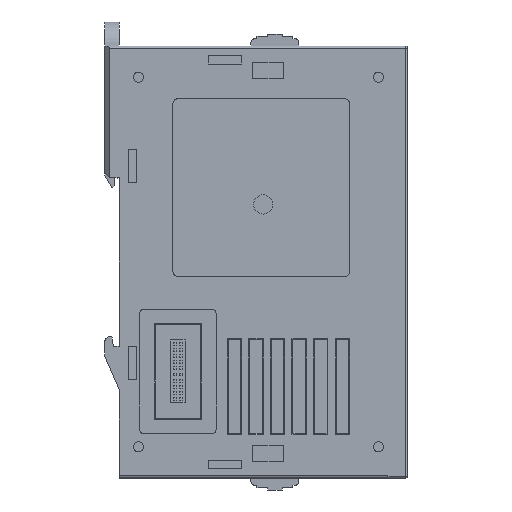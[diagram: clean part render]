
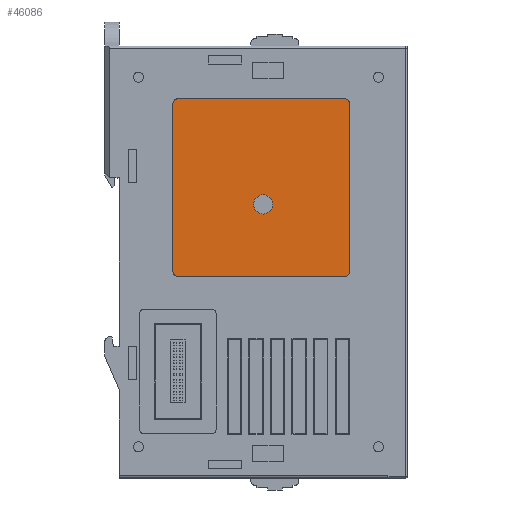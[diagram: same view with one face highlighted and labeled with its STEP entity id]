
A CAD part, front view. The second image highlights one B-rep face of the part: STEP entity #46086.
In plain terms, the highlighted planar face has unit normal (0, -1, 0).
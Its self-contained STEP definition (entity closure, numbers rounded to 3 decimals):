
#16339=DIRECTION('',(0.,0.,-1.));
#16340=VECTOR('',#16339,35.);
#16341=CARTESIAN_POINT('',(-18.8,0.3,33.));
#16342=LINE('',#16341,#16340);
#16348=CARTESIAN_POINT('',(17.,0.3,-2.));
#16349=DIRECTION('',(0.,-1.,0.));
#16350=DIRECTION('',(0.,0.,-1.));
#16351=AXIS2_PLACEMENT_3D('',#16348,#16349,#16350);
#16353=DIRECTION('',(1.,0.,0.));
#16354=VECTOR('',#16353,34.8);
#16355=CARTESIAN_POINT('',(-17.8,0.3,-3.));
#16356=LINE('',#16355,#16354);
#16357=CARTESIAN_POINT('',(-17.8,0.3,-2.));
#16358=DIRECTION('',(0.,-1.,0.));
#16359=DIRECTION('',(-1.,0.,0.));
#16360=AXIS2_PLACEMENT_3D('',#16357,#16358,#16359);
#16362=CARTESIAN_POINT('',(-17.8,0.3,33.));
#16363=DIRECTION('',(0.,-1.,0.));
#16364=DIRECTION('',(0.,0.,1.));
#16365=AXIS2_PLACEMENT_3D('',#16362,#16363,#16364);
#16367=CARTESIAN_POINT('',(17.,0.3,33.));
#16368=DIRECTION('',(0.,-1.,0.));
#16369=DIRECTION('',(1.,0.,0.));
#16370=AXIS2_PLACEMENT_3D('',#16367,#16368,#16369);
#16372=CARTESIAN_POINT('',(0.,0.3,12.));
#16373=DIRECTION('',(0.,-1.,0.));
#16374=DIRECTION('',(-1.,0.,0.));
#16375=AXIS2_PLACEMENT_3D('',#16372,#16373,#16374);
#16377=CARTESIAN_POINT('',(0.,0.3,12.));
#16378=DIRECTION('',(0.,-1.,0.));
#16379=DIRECTION('',(1.,0.,0.));
#16380=AXIS2_PLACEMENT_3D('',#16377,#16378,#16379);
#16391=DIRECTION('',(0.,0.,1.));
#16392=VECTOR('',#16391,35.);
#16393=CARTESIAN_POINT('',(18.,0.3,-2.));
#16394=LINE('',#16393,#16392);
#16420=DIRECTION('',(-1.,0.,0.));
#16421=VECTOR('',#16420,34.8);
#16422=CARTESIAN_POINT('',(17.,0.3,34.));
#16423=LINE('',#16422,#16421);
#17577=CARTESIAN_POINT('',(-2.,0.3,12.));
#17578=CARTESIAN_POINT('',(2.,0.3,12.));
#17579=VERTEX_POINT('',#17577);
#17580=VERTEX_POINT('',#17578);
#17601=CARTESIAN_POINT('',(17.,0.3,-3.));
#17602=CARTESIAN_POINT('',(18.,0.3,-2.));
#17603=VERTEX_POINT('',#17601);
#17604=VERTEX_POINT('',#17602);
#17609=CARTESIAN_POINT('',(-18.8,0.3,-2.));
#17610=CARTESIAN_POINT('',(-17.8,0.3,-3.));
#17611=VERTEX_POINT('',#17609);
#17612=VERTEX_POINT('',#17610);
#17617=CARTESIAN_POINT('',(-17.8,0.3,34.));
#17618=CARTESIAN_POINT('',(-18.8,0.3,33.));
#17619=VERTEX_POINT('',#17617);
#17620=VERTEX_POINT('',#17618);
#17625=CARTESIAN_POINT('',(18.,0.3,33.));
#17626=CARTESIAN_POINT('',(17.,0.3,34.));
#17627=VERTEX_POINT('',#17625);
#17628=VERTEX_POINT('',#17626);
#46059=CARTESIAN_POINT('',(0.,0.3,0.));
#46060=DIRECTION('',(0.,-1.,0.));
#46061=DIRECTION('',(1.,0.,0.));
#46062=AXIS2_PLACEMENT_3D('',#46059,#46060,#46061);
#46063=PLANE('',#46062);
#46065=ORIENTED_EDGE('',*,*,#46064,.F.);
#46067=ORIENTED_EDGE('',*,*,#46066,.F.);
#46068=ORIENTED_EDGE('',*,*,#46050,.F.);
#46069=ORIENTED_EDGE('',*,*,#46040,.F.);
#46071=ORIENTED_EDGE('',*,*,#46070,.F.);
#46073=ORIENTED_EDGE('',*,*,#46072,.F.);
#46075=ORIENTED_EDGE('',*,*,#46074,.F.);
#46077=ORIENTED_EDGE('',*,*,#46076,.F.);
#46078=EDGE_LOOP('',(#46065,#46067,#46068,#46069,#46071,#46073,#46075,#46077));
#46079=FACE_OUTER_BOUND('',#46078,.F.);
#46081=ORIENTED_EDGE('',*,*,#46080,.T.);
#46083=ORIENTED_EDGE('',*,*,#46082,.T.);
#46084=EDGE_LOOP('',(#46081,#46083));
#46085=FACE_BOUND('',#46084,.F.);
#46086=ADVANCED_FACE('',(#46079,#46085),#46063,.T.);
#16352=CIRCLE('',#16351,1.);
#16361=CIRCLE('',#16360,1.);
#16366=CIRCLE('',#16365,1.);
#16371=CIRCLE('',#16370,1.);
#16376=CIRCLE('',#16375,2.);
#16381=CIRCLE('',#16380,2.);
#46040=EDGE_CURVE('',#17620,#17611,#16342,.T.);
#46050=EDGE_CURVE('',#17611,#17612,#16361,.T.);
#46064=EDGE_CURVE('',#17603,#17604,#16352,.T.);
#46066=EDGE_CURVE('',#17612,#17603,#16356,.T.);
#46070=EDGE_CURVE('',#17619,#17620,#16366,.T.);
#46072=EDGE_CURVE('',#17628,#17619,#16423,.T.);
#46074=EDGE_CURVE('',#17627,#17628,#16371,.T.);
#46076=EDGE_CURVE('',#17604,#17627,#16394,.T.);
#46080=EDGE_CURVE('',#17579,#17580,#16376,.T.);
#46082=EDGE_CURVE('',#17580,#17579,#16381,.T.);
